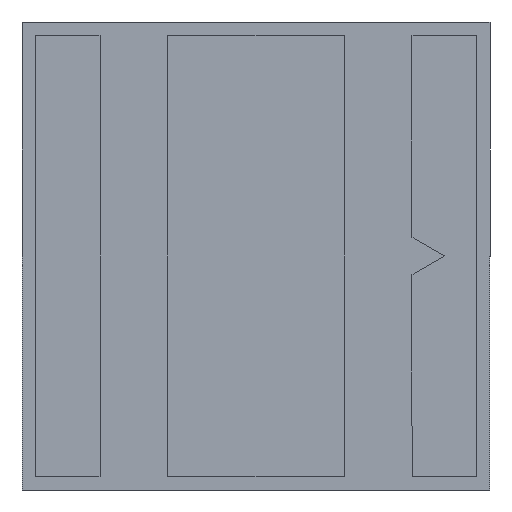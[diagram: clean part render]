
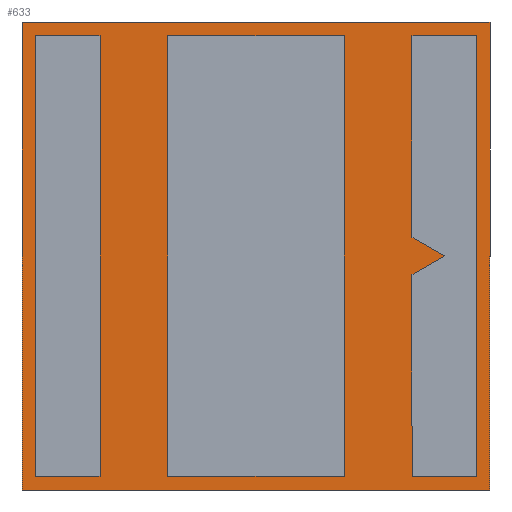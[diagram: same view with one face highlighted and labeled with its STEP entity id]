
A CAD part, front view. The second image highlights one B-rep face of the part: STEP entity #633.
In plain terms, the highlighted planar face has unit normal (0, -1, 0).
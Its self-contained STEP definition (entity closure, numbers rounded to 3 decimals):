
#8 = CARTESIAN_POINT ( 'NONE',  ( 1.387, 0., 0. ) ) ;
#16 = VERTEX_POINT ( 'NONE', #1004 ) ;
#36 = CARTESIAN_POINT ( 'NONE',  ( 0.65, 0., -1.625 ) ) ;
#38 = EDGE_LOOP ( 'NONE', ( #852, #278, #194, #287 ) ) ;
#42 = PLANE ( 'NONE',  #981 ) ;
#49 = ORIENTED_EDGE ( 'NONE', *, *, #379, .F. ) ;
#51 = EDGE_CURVE ( 'NONE', #823, #16, #812, .T. ) ;
#56 = VECTOR ( 'NONE', #420, 1000. ) ;
#82 = VECTOR ( 'NONE', #649, 1000. ) ;
#89 = CARTESIAN_POINT ( 'NONE',  ( 1.725, 0., -1.725 ) ) ;
#92 = VERTEX_POINT ( 'NONE', #146 ) ;
#95 = VECTOR ( 'NONE', #673, 1000. ) ;
#109 = ORIENTED_EDGE ( 'NONE', *, *, #345, .F. ) ;
#116 = CARTESIAN_POINT ( 'NONE',  ( -1.15, 0., 1.625 ) ) ;
#119 = CARTESIAN_POINT ( 'NONE',  ( 1.15, 0., -0.137 ) ) ;
#120 = VECTOR ( 'NONE', #204, 1000. ) ;
#124 = CARTESIAN_POINT ( 'NONE',  ( -1.625, 0., 1.625 ) ) ;
#126 = EDGE_CURVE ( 'NONE', #920, #984, #282, .T. ) ;
#129 = ORIENTED_EDGE ( 'NONE', *, *, #646, .F. ) ;
#132 = CARTESIAN_POINT ( 'NONE',  ( 1.15, 0., 1.625 ) ) ;
#139 = ORIENTED_EDGE ( 'NONE', *, *, #980, .F. ) ;
#142 = VECTOR ( 'NONE', #313, 1000. ) ;
#143 = CARTESIAN_POINT ( 'NONE',  ( 1.725, 0., -1.725 ) ) ;
#146 = CARTESIAN_POINT ( 'NONE',  ( -1.625, 0., -1.625 ) ) ;
#159 = CARTESIAN_POINT ( 'NONE',  ( -0.65, 0., 1.625 ) ) ;
#167 = EDGE_CURVE ( 'NONE', #549, #755, #422, .T. ) ;
#173 = CARTESIAN_POINT ( 'NONE',  ( -1.725, 0., 1.725 ) ) ;
#175 = CARTESIAN_POINT ( 'NONE',  ( -1.15, 0., 1.625 ) ) ;
#184 = CARTESIAN_POINT ( 'NONE',  ( 1.15, 0., -0.137 ) ) ;
#185 = ORIENTED_EDGE ( 'NONE', *, *, #749, .F. ) ;
#188 = EDGE_LOOP ( 'NONE', ( #621, #226, #998, #139 ) ) ;
#194 = ORIENTED_EDGE ( 'NONE', *, *, #205, .F. ) ;
#197 = LINE ( 'NONE', #274, #601 ) ;
#199 = DIRECTION ( 'NONE',  ( 0., 1., 0. ) ) ;
#204 = DIRECTION ( 'NONE',  ( 1., 0., 0. ) ) ;
#205 = EDGE_CURVE ( 'NONE', #841, #823, #584, .T. ) ;
#207 = VECTOR ( 'NONE', #787, 1000. ) ;
#211 = ORIENTED_EDGE ( 'NONE', *, *, #126, .F. ) ;
#212 = LINE ( 'NONE', #184, #684 ) ;
#222 = CARTESIAN_POINT ( 'NONE',  ( -0.65, 0., 1.625 ) ) ;
#226 = ORIENTED_EDGE ( 'NONE', *, *, #834, .F. ) ;
#231 = VECTOR ( 'NONE', #849, 1000. ) ;
#241 = DIRECTION ( 'NONE',  ( -1., 0., 0. ) ) ;
#253 = EDGE_CURVE ( 'NONE', #735, #549, #604, .T. ) ;
#257 = FACE_BOUND ( 'NONE', #472, .T. ) ;
#260 = CARTESIAN_POINT ( 'NONE',  ( -1.625, 0., 1.625 ) ) ;
#261 = CARTESIAN_POINT ( 'NONE',  ( -1.625, 0., -1.625 ) ) ;
#268 = ORIENTED_EDGE ( 'NONE', *, *, #312, .F. ) ;
#274 = CARTESIAN_POINT ( 'NONE',  ( -1.15, 0., 1.625 ) ) ;
#275 = EDGE_CURVE ( 'NONE', #16, #551, #743, .T. ) ;
#278 = ORIENTED_EDGE ( 'NONE', *, *, #51, .F. ) ;
#280 = CARTESIAN_POINT ( 'NONE',  ( -0.65, 0., -1.625 ) ) ;
#282 = LINE ( 'NONE', #454, #231 ) ;
#283 = LINE ( 'NONE', #261, #82 ) ;
#285 = CARTESIAN_POINT ( 'NONE',  ( 1.387, 0., 0. ) ) ;
#287 = ORIENTED_EDGE ( 'NONE', *, *, #413, .F. ) ;
#288 = VERTEX_POINT ( 'NONE', #960 ) ;
#302 = CARTESIAN_POINT ( 'NONE',  ( 1.725, 0., 1.725 ) ) ;
#309 = DIRECTION ( 'NONE',  ( 0., 0., 1. ) ) ;
#312 = EDGE_CURVE ( 'NONE', #663, #920, #212, .T. ) ;
#313 = DIRECTION ( 'NONE',  ( 0., 0., -1. ) ) ;
#318 = CARTESIAN_POINT ( 'NONE',  ( 1.15, 0., 1.625 ) ) ;
#345 = EDGE_CURVE ( 'NONE', #535, #735, #628, .T. ) ;
#360 = ORIENTED_EDGE ( 'NONE', *, *, #578, .F. ) ;
#364 = DIRECTION ( 'NONE',  ( 0., 0., 1. ) ) ;
#369 = VECTOR ( 'NONE', #805, 1000. ) ;
#377 = VERTEX_POINT ( 'NONE', #175 ) ;
#378 = VECTOR ( 'NONE', #790, 1000. ) ;
#379 = EDGE_CURVE ( 'NONE', #92, #288, #283, .T. ) ;
#407 = ORIENTED_EDGE ( 'NONE', *, *, #253, .F. ) ;
#413 = EDGE_CURVE ( 'NONE', #551, #841, #728, .T. ) ;
#420 = DIRECTION ( 'NONE',  ( -1., 0., 0. ) ) ;
#422 = LINE ( 'NONE', #8, #207 ) ;
#442 = DIRECTION ( 'NONE',  ( 0., 0., 1. ) ) ;
#447 = VERTEX_POINT ( 'NONE', #260 ) ;
#451 = VECTOR ( 'NONE', #538, 1000. ) ;
#454 = CARTESIAN_POINT ( 'NONE',  ( 1.15, 0., -1.625 ) ) ;
#462 = CARTESIAN_POINT ( 'NONE',  ( -1.725, 0., -1.725 ) ) ;
#463 = FACE_OUTER_BOUND ( 'NONE', #38, .T. ) ;
#472 = EDGE_LOOP ( 'NONE', ( #211, #268, #129, #754, #407, #109, #599 ) ) ;
#498 = VECTOR ( 'NONE', #241, 1000. ) ;
#506 = ORIENTED_EDGE ( 'NONE', *, *, #576, .F. ) ;
#514 = DIRECTION ( 'NONE',  ( -1., 0., 0. ) ) ;
#516 = CARTESIAN_POINT ( 'NONE',  ( 1.387, 0., 0. ) ) ;
#535 = VERTEX_POINT ( 'NONE', #745 ) ;
#538 = DIRECTION ( 'NONE',  ( -1., 0., 0. ) ) ;
#549 = VERTEX_POINT ( 'NONE', #590 ) ;
#551 = VERTEX_POINT ( 'NONE', #656 ) ;
#553 = LINE ( 'NONE', #116, #884 ) ;
#576 = EDGE_CURVE ( 'NONE', #288, #377, #553, .T. ) ;
#578 = EDGE_CURVE ( 'NONE', #377, #447, #197, .T. ) ;
#584 = LINE ( 'NONE', #89, #913 ) ;
#590 = CARTESIAN_POINT ( 'NONE',  ( 1.15, 0., 0.137 ) ) ;
#595 = DIRECTION ( 'NONE',  ( -0.866, 0., -0.5 ) ) ;
#599 = ORIENTED_EDGE ( 'NONE', *, *, #648, .F. ) ;
#601 = VECTOR ( 'NONE', #514, 1000. ) ;
#604 = LINE ( 'NONE', #318, #668 ) ;
#605 = CARTESIAN_POINT ( 'NONE',  ( 1.625, 0., -1.625 ) ) ;
#613 = VECTOR ( 'NONE', #442, 1000. ) ;
#621 = ORIENTED_EDGE ( 'NONE', *, *, #958, .F. ) ;
#628 = LINE ( 'NONE', #803, #56 ) ;
#629 = CARTESIAN_POINT ( 'NONE',  ( 1.15, 0., -1.625 ) ) ;
#633 = ADVANCED_FACE ( 'NONE', ( #1001, #463, #798, #257 ), #42, .F. ) ;
#643 = DIRECTION ( 'NONE',  ( 0., 0., -1. ) ) ;
#646 = EDGE_CURVE ( 'NONE', #755, #663, #976, .T. ) ;
#648 = EDGE_CURVE ( 'NONE', #984, #535, #756, .T. ) ;
#649 = DIRECTION ( 'NONE',  ( 1., 0., 0. ) ) ;
#652 = VECTOR ( 'NONE', #309, 1000. ) ;
#656 = CARTESIAN_POINT ( 'NONE',  ( -1.725, 0., 1.725 ) ) ;
#663 = VERTEX_POINT ( 'NONE', #119 ) ;
#668 = VECTOR ( 'NONE', #1018, 1000. ) ;
#673 = DIRECTION ( 'NONE',  ( 0., 0., -1. ) ) ;
#684 = VECTOR ( 'NONE', #808, 1000. ) ;
#703 = VERTEX_POINT ( 'NONE', #280 ) ;
#714 = CARTESIAN_POINT ( 'NONE',  ( -1.725, 0., -1.725 ) ) ;
#728 = LINE ( 'NONE', #173, #369 ) ;
#735 = VERTEX_POINT ( 'NONE', #132 ) ;
#743 = LINE ( 'NONE', #714, #378 ) ;
#745 = CARTESIAN_POINT ( 'NONE',  ( 1.625, 0., 1.625 ) ) ;
#748 = LINE ( 'NONE', #159, #142 ) ;
#749 = EDGE_CURVE ( 'NONE', #447, #92, #883, .T. ) ;
#754 = ORIENTED_EDGE ( 'NONE', *, *, #167, .F. ) ;
#755 = VERTEX_POINT ( 'NONE', #516 ) ;
#756 = LINE ( 'NONE', #605, #613 ) ;
#762 = EDGE_CURVE ( 'NONE', #703, #767, #1010, .T. ) ;
#767 = VERTEX_POINT ( 'NONE', #36 ) ;
#787 = DIRECTION ( 'NONE',  ( 0.866, 0., -0.5 ) ) ;
#790 = DIRECTION ( 'NONE',  ( 0., 0., 1. ) ) ;
#795 = VERTEX_POINT ( 'NONE', #851 ) ;
#796 = VERTEX_POINT ( 'NONE', #222 ) ;
#798 = FACE_BOUND ( 'NONE', #188, .T. ) ;
#803 = CARTESIAN_POINT ( 'NONE',  ( 1.625, 0., 1.625 ) ) ;
#805 = DIRECTION ( 'NONE',  ( 1., 0., 0. ) ) ;
#808 = DIRECTION ( 'NONE',  ( 0., 0., -1. ) ) ;
#812 = LINE ( 'NONE', #462, #451 ) ;
#819 = DIRECTION ( 'NONE',  ( 0., 0., 1. ) ) ;
#821 = LINE ( 'NONE', #999, #652 ) ;
#823 = VERTEX_POINT ( 'NONE', #143 ) ;
#834 = EDGE_CURVE ( 'NONE', #767, #795, #821, .T. ) ;
#838 = CARTESIAN_POINT ( 'NONE',  ( 0., 0., 0. ) ) ;
#841 = VERTEX_POINT ( 'NONE', #302 ) ;
#849 = DIRECTION ( 'NONE',  ( 1., 0., 0. ) ) ;
#851 = CARTESIAN_POINT ( 'NONE',  ( 0.65, 0., 1.625 ) ) ;
#852 = ORIENTED_EDGE ( 'NONE', *, *, #275, .F. ) ;
#857 = VECTOR ( 'NONE', #595, 1000. ) ;
#883 = LINE ( 'NONE', #124, #95 ) ;
#884 = VECTOR ( 'NONE', #819, 1000. ) ;
#913 = VECTOR ( 'NONE', #643, 1000. ) ;
#920 = VERTEX_POINT ( 'NONE', #629 ) ;
#926 = CARTESIAN_POINT ( 'NONE',  ( 0.65, 0., 1.625 ) ) ;
#944 = CARTESIAN_POINT ( 'NONE',  ( 1.625, 0., -1.625 ) ) ;
#958 = EDGE_CURVE ( 'NONE', #795, #796, #1003, .T. ) ;
#960 = CARTESIAN_POINT ( 'NONE',  ( -1.15, 0., -1.625 ) ) ;
#974 = EDGE_LOOP ( 'NONE', ( #360, #506, #49, #185 ) ) ;
#975 = CARTESIAN_POINT ( 'NONE',  ( -0.65, 0., -1.625 ) ) ;
#976 = LINE ( 'NONE', #285, #857 ) ;
#980 = EDGE_CURVE ( 'NONE', #796, #703, #748, .T. ) ;
#981 = AXIS2_PLACEMENT_3D ( 'NONE', #838, #199, #364 ) ;
#984 = VERTEX_POINT ( 'NONE', #944 ) ;
#998 = ORIENTED_EDGE ( 'NONE', *, *, #762, .F. ) ;
#999 = CARTESIAN_POINT ( 'NONE',  ( 0.65, 0., 1.625 ) ) ;
#1001 = FACE_BOUND ( 'NONE', #974, .T. ) ;
#1003 = LINE ( 'NONE', #926, #498 ) ;
#1004 = CARTESIAN_POINT ( 'NONE',  ( -1.725, 0., -1.725 ) ) ;
#1010 = LINE ( 'NONE', #975, #120 ) ;
#1018 = DIRECTION ( 'NONE',  ( 0., 0., -1. ) ) ;
